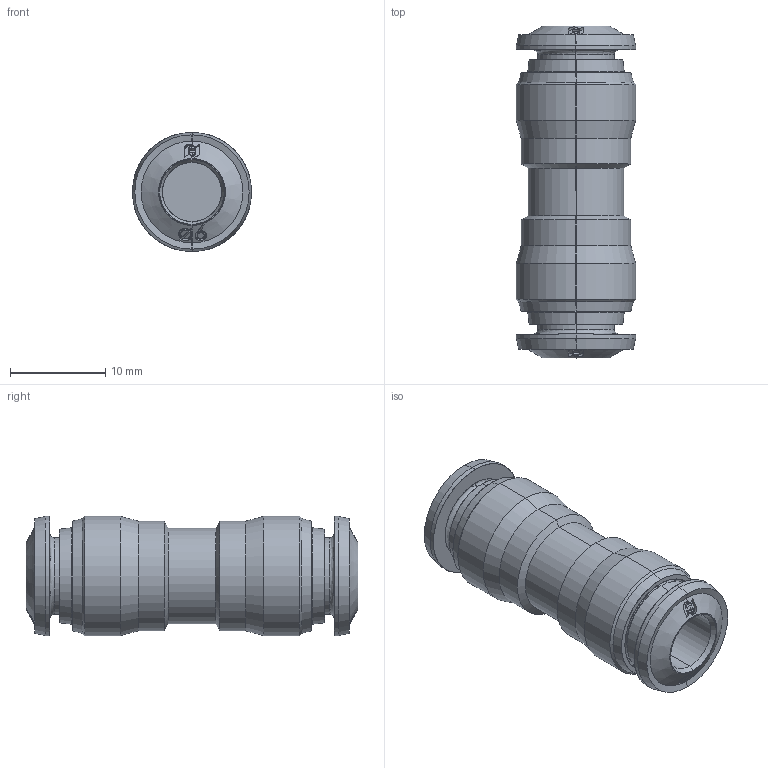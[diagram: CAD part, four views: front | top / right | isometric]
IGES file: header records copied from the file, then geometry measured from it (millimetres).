
Start section: SolidWorks IGES file using analytic representation for surfaces
Global section: file name: K:\Disegni Esecutivi\Serie 50000\ASSIEMI\50040\ASSIEMI_PIENI_50040\5004000003.IGS; native system: SolidWorks 2007; preprocessor: SolidWorks 2007; author: cad02; date: 071011.095823; units: millimetre
Bounding box: 12.5 x 34.8 x 12.5 mm (x, y, z)
Surface area: 2402.1 mm2 (no closed solid volume)
Topology: 0 solids, 0 shells, 232 faces, 2778 edges, 2778 vertices
Faces by surface type: bspline 120, revolution 112
